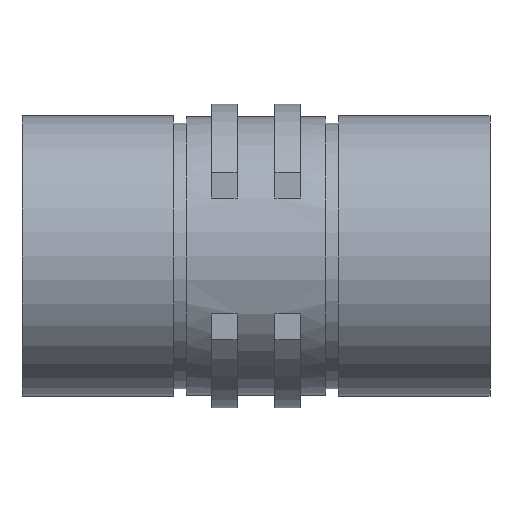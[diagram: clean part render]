
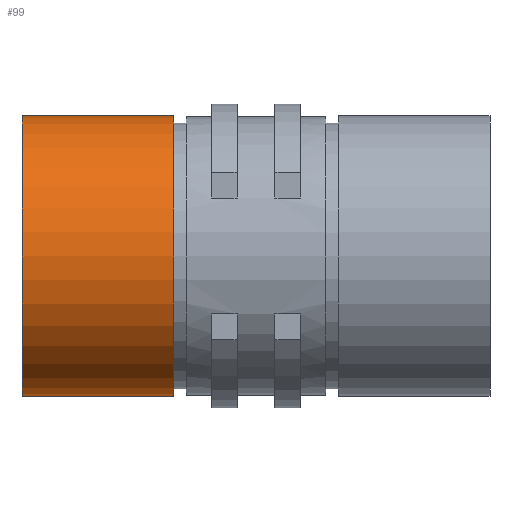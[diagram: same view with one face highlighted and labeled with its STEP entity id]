
A CAD part, front view. The second image highlights one B-rep face of the part: STEP entity #99.
In plain terms, the highlighted cylindrical face has radius 11.1 mm (diameter 22.2 mm), a full revolution.
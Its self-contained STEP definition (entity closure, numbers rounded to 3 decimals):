
#99 = ADVANCED_FACE( '', ( #171, #172 ), #173, .T. );
#171 = FACE_OUTER_BOUND( '', #263, .T. );
#172 = FACE_OUTER_BOUND( '', #264, .T. );
#173 = CYLINDRICAL_SURFACE( '', #265, 11.1 );
#263 = EDGE_LOOP( '', ( #466 ) );
#264 = EDGE_LOOP( '', ( #467 ) );
#265 = AXIS2_PLACEMENT_3D( '', #468, #469, #470 );
#466 = ORIENTED_EDGE( '', *, *, #588, .F. );
#467 = ORIENTED_EDGE( '', *, *, #589, .T. );
#468 = CARTESIAN_POINT( '', ( -60., 0., 0. ) );
#469 = DIRECTION( '', ( -1., 0., 0. ) );
#470 = DIRECTION( '', ( 0., 0., -1. ) );
#588 = EDGE_CURVE( '', #692, #692, #693, .T. );
#589 = EDGE_CURVE( '', #694, #694, #695, .T. );
#692 = VERTEX_POINT( '', #836 );
#693 = CIRCLE( '', #837, 11.1 );
#694 = VERTEX_POINT( '', #838 );
#695 = CIRCLE( '', #839, 11.1 );
#836 = CARTESIAN_POINT( '', ( -6.5, 0., -11.1 ) );
#837 = AXIS2_PLACEMENT_3D( '', #956, #957, #958 );
#838 = CARTESIAN_POINT( '', ( -18.5, 0., -11.1 ) );
#839 = AXIS2_PLACEMENT_3D( '', #959, #960, #961 );
#956 = CARTESIAN_POINT( '', ( -6.5, 0., 0. ) );
#957 = DIRECTION( '', ( 1., 0., 0. ) );
#958 = DIRECTION( '', ( 0., 0., -1. ) );
#959 = CARTESIAN_POINT( '', ( -18.5, 0., 0. ) );
#960 = DIRECTION( '', ( 1., 0., 0. ) );
#961 = DIRECTION( '', ( 0., 0., -1. ) );
